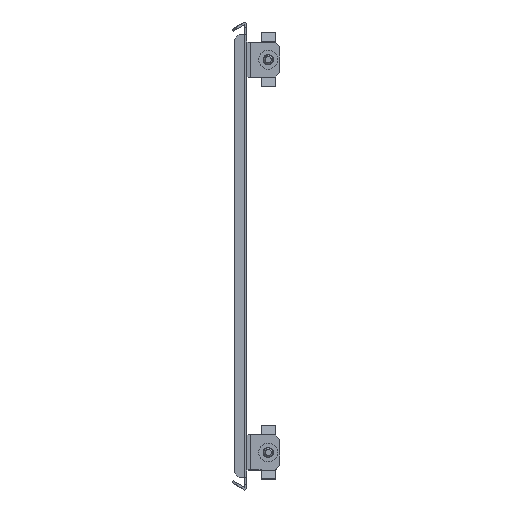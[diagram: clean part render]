
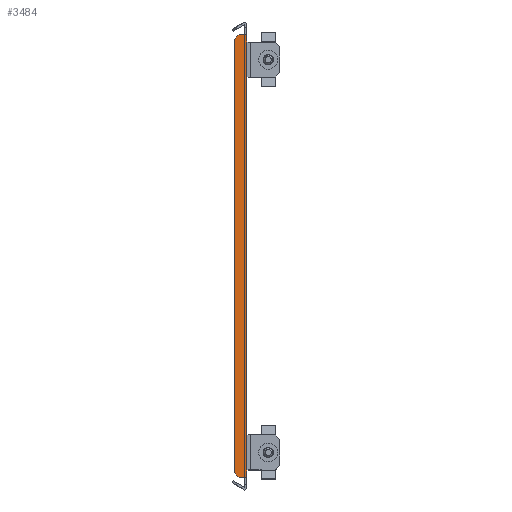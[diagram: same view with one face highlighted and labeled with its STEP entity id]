
A CAD part, front view. The second image highlights one B-rep face of the part: STEP entity #3484.
In plain terms, the highlighted planar face has unit normal (0, -1, 0).
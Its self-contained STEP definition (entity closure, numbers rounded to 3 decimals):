
#19 = VERTEX_POINT ( 'NONE', #8654 ) ;
#246 = VECTOR ( 'NONE', #21208, 1000. ) ;
#379 = LINE ( 'NONE', #6065, #246 ) ;
#2784 = DIRECTION ( 'NONE',  ( 0., 0., 1. ) ) ;
#2792 = CARTESIAN_POINT ( 'NONE',  ( 0., -253., 0. ) ) ;
#3316 = DIRECTION ( 'NONE',  ( 0., 0., -1. ) ) ;
#3357 = ORIENTED_EDGE ( 'NONE', *, *, #19079, .T. ) ;
#3428 = LINE ( 'NONE', #14332, #23279 ) ;
#3484 = ADVANCED_FACE ( 'NONE', ( #11039 ), #5329, .F. ) ;
#3633 = CARTESIAN_POINT ( 'NONE',  ( 0., -253., -136.095 ) ) ;
#3636 = VERTEX_POINT ( 'NONE', #12779 ) ;
#3845 = CARTESIAN_POINT ( 'NONE',  ( -72.948, -253., 72.948 ) ) ;
#4056 = EDGE_CURVE ( 'NONE', #5669, #17833, #9877, .T. ) ;
#4218 = VECTOR ( 'NONE', #7263, 1000. ) ;
#4289 = VERTEX_POINT ( 'NONE', #7398 ) ;
#4337 = VECTOR ( 'NONE', #21483, 1000. ) ;
#4480 = LINE ( 'NONE', #13920, #4337 ) ;
#4628 = CARTESIAN_POINT ( 'NONE',  ( -5., -253., 140.897 ) ) ;
#4690 = EDGE_LOOP ( 'NONE', ( #8872, #17167, #16338, #16356, #9237, #17879, #12007, #3357, #15989, #16146 ) ) ;
#5294 = CARTESIAN_POINT ( 'NONE',  ( 0., -253., 0. ) ) ;
#5329 = PLANE ( 'NONE',  #17353 ) ;
#5376 = CARTESIAN_POINT ( 'NONE',  ( 0., -253., 113.75 ) ) ;
#5669 = VERTEX_POINT ( 'NONE', #3633 ) ;
#6065 = CARTESIAN_POINT ( 'NONE',  ( 0., -253., -140.897 ) ) ;
#6178 = VECTOR ( 'NONE', #2784, 1000. ) ;
#6596 = CARTESIAN_POINT ( 'NONE',  ( 0., -253., 140.897 ) ) ;
#6952 = DIRECTION ( 'NONE',  ( 0., 1., 0. ) ) ;
#7218 = VERTEX_POINT ( 'NONE', #22419 ) ;
#7263 = DIRECTION ( 'NONE',  ( 0., 0., 1. ) ) ;
#7398 = CARTESIAN_POINT ( 'NONE',  ( 0., -253., -140.897 ) ) ;
#7528 = EDGE_CURVE ( 'NONE', #17833, #13130, #23530, .T. ) ;
#7944 = VECTOR ( 'NONE', #12086, 1000. ) ;
#8654 = CARTESIAN_POINT ( 'NONE',  ( 0., -253., 140.897 ) ) ;
#8771 = EDGE_CURVE ( 'NONE', #19, #24582, #22228, .T. ) ;
#8872 = ORIENTED_EDGE ( 'NONE', *, *, #22367, .T. ) ;
#9170 = LINE ( 'NONE', #5294, #9489 ) ;
#9237 = ORIENTED_EDGE ( 'NONE', *, *, #21946, .T. ) ;
#9489 = VECTOR ( 'NONE', #20334, 1000. ) ;
#9877 = LINE ( 'NONE', #13835, #6178 ) ;
#10700 = VECTOR ( 'NONE', #23732, 1000. ) ;
#11039 = FACE_OUTER_BOUND ( 'NONE', #4690, .T. ) ;
#11794 = VERTEX_POINT ( 'NONE', #16234 ) ;
#12007 = ORIENTED_EDGE ( 'NONE', *, *, #8771, .T. ) ;
#12086 = DIRECTION ( 'NONE',  ( 0., 0., 1. ) ) ;
#12779 = CARTESIAN_POINT ( 'NONE',  ( -5., -253., -140.897 ) ) ;
#13130 = VERTEX_POINT ( 'NONE', #5376 ) ;
#13835 = CARTESIAN_POINT ( 'NONE',  ( 0., -253., 0. ) ) ;
#13920 = CARTESIAN_POINT ( 'NONE',  ( 0., -253., 0. ) ) ;
#14332 = CARTESIAN_POINT ( 'NONE',  ( -72.948, -253., -72.948 ) ) ;
#14532 = DIRECTION ( 'NONE',  ( 1., 0., 0. ) ) ;
#15037 = VECTOR ( 'NONE', #3316, 1000. ) ;
#15909 = CARTESIAN_POINT ( 'NONE',  ( -8., -253., -137.897 ) ) ;
#15989 = ORIENTED_EDGE ( 'NONE', *, *, #23759, .T. ) ;
#16146 = ORIENTED_EDGE ( 'NONE', *, *, #22716, .T. ) ;
#16234 = CARTESIAN_POINT ( 'NONE',  ( 0., -253., 136.095 ) ) ;
#16338 = ORIENTED_EDGE ( 'NONE', *, *, #4056, .T. ) ;
#16356 = ORIENTED_EDGE ( 'NONE', *, *, #7528, .T. ) ;
#16373 = VERTEX_POINT ( 'NONE', #15909 ) ;
#16565 = VECTOR ( 'NONE', #16802, 1000. ) ;
#16802 = DIRECTION ( 'NONE',  ( -0.707, 0., -0.707 ) ) ;
#17084 = LINE ( 'NONE', #20911, #4218 ) ;
#17167 = ORIENTED_EDGE ( 'NONE', *, *, #18679, .T. ) ;
#17353 = AXIS2_PLACEMENT_3D ( 'NONE', #22226, #6952, #14532 ) ;
#17833 = VERTEX_POINT ( 'NONE', #21753 ) ;
#17879 = ORIENTED_EDGE ( 'NONE', *, *, #20797, .T. ) ;
#17932 = DIRECTION ( 'NONE',  ( 0.707, 0., -0.707 ) ) ;
#18679 = EDGE_CURVE ( 'NONE', #4289, #5669, #17084, .T. ) ;
#19079 = EDGE_CURVE ( 'NONE', #24582, #7218, #20514, .T. ) ;
#20334 = DIRECTION ( 'NONE',  ( 0., 0., 1. ) ) ;
#20514 = LINE ( 'NONE', #3845, #16565 ) ;
#20797 = EDGE_CURVE ( 'NONE', #11794, #19, #9170, .T. ) ;
#20911 = CARTESIAN_POINT ( 'NONE',  ( 0., -253., 0. ) ) ;
#21208 = DIRECTION ( 'NONE',  ( 1., 0., 0. ) ) ;
#21483 = DIRECTION ( 'NONE',  ( 0., 0., 1. ) ) ;
#21753 = CARTESIAN_POINT ( 'NONE',  ( 0., -253., -113.75 ) ) ;
#21946 = EDGE_CURVE ( 'NONE', #13130, #11794, #4480, .T. ) ;
#22226 = CARTESIAN_POINT ( 'NONE',  ( 0., -253., 0. ) ) ;
#22228 = LINE ( 'NONE', #6596, #10700 ) ;
#22319 = CARTESIAN_POINT ( 'NONE',  ( -8., -253., 0. ) ) ;
#22367 = EDGE_CURVE ( 'NONE', #3636, #4289, #379, .T. ) ;
#22419 = CARTESIAN_POINT ( 'NONE',  ( -8., -253., 137.897 ) ) ;
#22716 = EDGE_CURVE ( 'NONE', #16373, #3636, #3428, .T. ) ;
#23279 = VECTOR ( 'NONE', #17932, 1000. ) ;
#23530 = LINE ( 'NONE', #2792, #7944 ) ;
#23732 = DIRECTION ( 'NONE',  ( -1., 0., 0. ) ) ;
#23759 = EDGE_CURVE ( 'NONE', #7218, #16373, #23940, .T. ) ;
#23940 = LINE ( 'NONE', #22319, #15037 ) ;
#24582 = VERTEX_POINT ( 'NONE', #4628 ) ;
